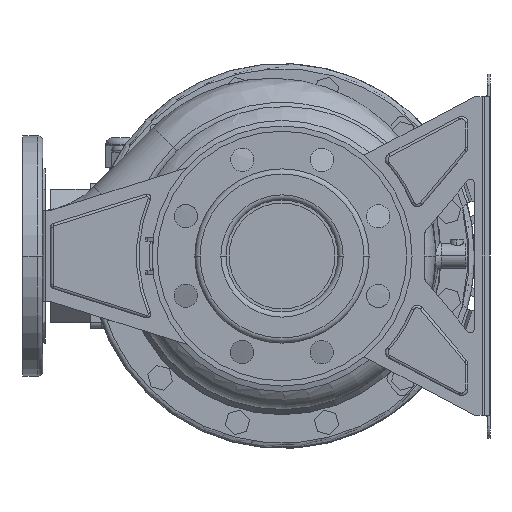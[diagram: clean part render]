
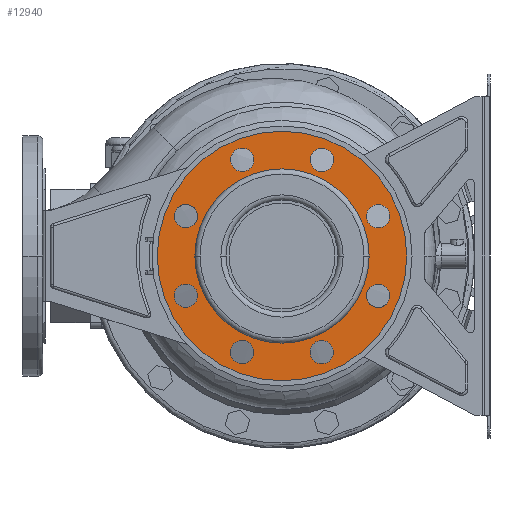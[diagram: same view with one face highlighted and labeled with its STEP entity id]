
A CAD part, left-side view. The second image highlights one B-rep face of the part: STEP entity #12940.
In plain terms, the highlighted planar face has unit normal (-1, 0, 0).
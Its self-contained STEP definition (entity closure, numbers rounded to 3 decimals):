
#12057=CARTESIAN_POINT('',(14.,0.,0.));
#12058=DIRECTION('',(1.,0.,0.));
#12059=DIRECTION('',(0.,-1.,0.));
#12060=AXIS2_PLACEMENT_3D('',#12057,#12058,#12059);
#12065=CARTESIAN_POINT('',(14.,0.,0.));
#12066=DIRECTION('',(1.,0.,0.));
#12067=DIRECTION('',(0.,1.,0.));
#12068=AXIS2_PLACEMENT_3D('',#12065,#12066,#12067);
#12073=CARTESIAN_POINT('',(14.,0.,0.));
#12074=DIRECTION('',(-1.,0.,0.));
#12075=DIRECTION('',(0.,-1.,0.));
#12076=AXIS2_PLACEMENT_3D('',#12073,#12074,#12075);
#12081=CARTESIAN_POINT('',(14.,0.,0.));
#12082=DIRECTION('',(-1.,0.,0.));
#12083=DIRECTION('',(0.,1.,0.));
#12084=AXIS2_PLACEMENT_3D('',#12081,#12082,#12083);
#12089=CARTESIAN_POINT('',(14.,-73.91,30.615));
#12090=DIRECTION('',(-1.,0.,0.));
#12091=DIRECTION('',(0.,-1.,0.));
#12092=AXIS2_PLACEMENT_3D('',#12089,#12090,#12091);
#12097=CARTESIAN_POINT('',(14.,-73.91,30.615));
#12098=DIRECTION('',(-1.,0.,0.));
#12099=DIRECTION('',(0.,1.,0.));
#12100=AXIS2_PLACEMENT_3D('',#12097,#12098,#12099);
#12105=CARTESIAN_POINT('',(14.,-73.91,-30.615));
#12106=DIRECTION('',(-1.,0.,0.));
#12107=DIRECTION('',(0.,-0.707,-0.707));
#12108=AXIS2_PLACEMENT_3D('',#12105,#12106,#12107);
#12113=CARTESIAN_POINT('',(14.,-73.91,-30.615));
#12114=DIRECTION('',(-1.,0.,0.));
#12115=DIRECTION('',(0.,0.707,0.707));
#12116=AXIS2_PLACEMENT_3D('',#12113,#12114,#12115);
#12121=CARTESIAN_POINT('',(14.,-30.615,-73.91));
#12122=DIRECTION('',(-1.,0.,0.));
#12123=DIRECTION('',(0.,0.,-1.));
#12124=AXIS2_PLACEMENT_3D('',#12121,#12122,#12123);
#12129=CARTESIAN_POINT('',(14.,-30.615,-73.91));
#12130=DIRECTION('',(-1.,0.,0.));
#12131=DIRECTION('',(0.,0.,1.));
#12132=AXIS2_PLACEMENT_3D('',#12129,#12130,#12131);
#12137=CARTESIAN_POINT('',(14.,30.615,-73.91));
#12138=DIRECTION('',(-1.,0.,0.));
#12139=DIRECTION('',(0.,0.707,-0.707));
#12140=AXIS2_PLACEMENT_3D('',#12137,#12138,#12139);
#12145=CARTESIAN_POINT('',(14.,30.615,-73.91));
#12146=DIRECTION('',(-1.,0.,0.));
#12147=DIRECTION('',(0.,-0.707,0.707));
#12148=AXIS2_PLACEMENT_3D('',#12145,#12146,#12147);
#12153=CARTESIAN_POINT('',(14.,73.91,-30.615));
#12154=DIRECTION('',(-1.,0.,0.));
#12155=DIRECTION('',(0.,1.,0.));
#12156=AXIS2_PLACEMENT_3D('',#12153,#12154,#12155);
#12161=CARTESIAN_POINT('',(14.,73.91,-30.615));
#12162=DIRECTION('',(-1.,0.,0.));
#12163=DIRECTION('',(0.,-1.,0.));
#12164=AXIS2_PLACEMENT_3D('',#12161,#12162,#12163);
#12169=CARTESIAN_POINT('',(14.,73.91,30.615));
#12170=DIRECTION('',(-1.,0.,0.));
#12171=DIRECTION('',(0.,0.707,0.707));
#12172=AXIS2_PLACEMENT_3D('',#12169,#12170,#12171);
#12177=CARTESIAN_POINT('',(14.,73.91,30.615));
#12178=DIRECTION('',(-1.,0.,0.));
#12179=DIRECTION('',(0.,-0.707,-0.707));
#12180=AXIS2_PLACEMENT_3D('',#12177,#12178,#12179);
#12185=CARTESIAN_POINT('',(14.,30.615,73.91));
#12186=DIRECTION('',(-1.,0.,0.));
#12187=DIRECTION('',(0.,0.,1.));
#12188=AXIS2_PLACEMENT_3D('',#12185,#12186,#12187);
#12193=CARTESIAN_POINT('',(14.,30.615,73.91));
#12194=DIRECTION('',(-1.,0.,0.));
#12195=DIRECTION('',(0.,0.,-1.));
#12196=AXIS2_PLACEMENT_3D('',#12193,#12194,#12195);
#12201=CARTESIAN_POINT('',(14.,-30.615,73.91));
#12202=DIRECTION('',(-1.,0.,0.));
#12203=DIRECTION('',(0.,-0.707,0.707));
#12204=AXIS2_PLACEMENT_3D('',#12201,#12202,#12203);
#12209=CARTESIAN_POINT('',(14.,-30.615,73.91));
#12210=DIRECTION('',(-1.,0.,0.));
#12211=DIRECTION('',(0.,0.707,-0.707));
#12212=AXIS2_PLACEMENT_3D('',#12209,#12210,#12211);
#12515=CARTESIAN_POINT('',(14.,96.,0.));
#12516=VERTEX_POINT('',#12515);
#12517=CARTESIAN_POINT('',(14.,-96.,0.));
#12518=VERTEX_POINT('',#12517);
#12519=CARTESIAN_POINT('',(14.,-67.,0.));
#12520=CARTESIAN_POINT('',(14.,67.,0.));
#12521=VERTEX_POINT('',#12519);
#12522=VERTEX_POINT('',#12520);
#12523=CARTESIAN_POINT('',(14.,-82.91,30.615));
#12524=CARTESIAN_POINT('',(14.,-64.91,30.615));
#12525=VERTEX_POINT('',#12523);
#12526=VERTEX_POINT('',#12524);
#12527=CARTESIAN_POINT('',(14.,-80.274,-36.979));
#12528=CARTESIAN_POINT('',(14.,-67.546,-24.251));
#12529=VERTEX_POINT('',#12527);
#12530=VERTEX_POINT('',#12528);
#12531=CARTESIAN_POINT('',(14.,-30.615,-82.91));
#12532=CARTESIAN_POINT('',(14.,-30.615,-64.91));
#12533=VERTEX_POINT('',#12531);
#12534=VERTEX_POINT('',#12532);
#12535=CARTESIAN_POINT('',(14.,36.979,-80.274));
#12536=CARTESIAN_POINT('',(14.,24.251,-67.546));
#12537=VERTEX_POINT('',#12535);
#12538=VERTEX_POINT('',#12536);
#12539=CARTESIAN_POINT('',(14.,82.91,-30.615));
#12540=CARTESIAN_POINT('',(14.,64.91,-30.615));
#12541=VERTEX_POINT('',#12539);
#12542=VERTEX_POINT('',#12540);
#12543=CARTESIAN_POINT('',(14.,80.274,36.979));
#12544=CARTESIAN_POINT('',(14.,67.546,24.251));
#12545=VERTEX_POINT('',#12543);
#12546=VERTEX_POINT('',#12544);
#12547=CARTESIAN_POINT('',(14.,30.615,82.91));
#12548=CARTESIAN_POINT('',(14.,30.615,64.91));
#12549=VERTEX_POINT('',#12547);
#12550=VERTEX_POINT('',#12548);
#12551=CARTESIAN_POINT('',(14.,-36.979,80.274));
#12552=CARTESIAN_POINT('',(14.,-24.251,67.546));
#12553=VERTEX_POINT('',#12551);
#12554=VERTEX_POINT('',#12552);
#12877=CARTESIAN_POINT('',(14.,0.,0.));
#12878=DIRECTION('',(1.,0.,0.));
#12879=DIRECTION('',(0.,-1.,0.));
#12880=AXIS2_PLACEMENT_3D('',#12877,#12878,#12879);
#12881=PLANE('',#12880);
#12882=ORIENTED_EDGE('',*,*,#12870,.T.);
#12883=ORIENTED_EDGE('',*,*,#12859,.T.);
#12884=EDGE_LOOP('',(#12882,#12883));
#12885=FACE_OUTER_BOUND('',#12884,.F.);
#12887=ORIENTED_EDGE('',*,*,#12886,.T.);
#12889=ORIENTED_EDGE('',*,*,#12888,.T.);
#12890=EDGE_LOOP('',(#12887,#12889));
#12891=FACE_BOUND('',#12890,.F.);
#12893=ORIENTED_EDGE('',*,*,#12892,.T.);
#12895=ORIENTED_EDGE('',*,*,#12894,.T.);
#12896=EDGE_LOOP('',(#12893,#12895));
#12897=FACE_BOUND('',#12896,.F.);
#12899=ORIENTED_EDGE('',*,*,#12898,.T.);
#12901=ORIENTED_EDGE('',*,*,#12900,.T.);
#12902=EDGE_LOOP('',(#12899,#12901));
#12903=FACE_BOUND('',#12902,.F.);
#12905=ORIENTED_EDGE('',*,*,#12904,.T.);
#12907=ORIENTED_EDGE('',*,*,#12906,.T.);
#12908=EDGE_LOOP('',(#12905,#12907));
#12909=FACE_BOUND('',#12908,.F.);
#12911=ORIENTED_EDGE('',*,*,#12910,.T.);
#12913=ORIENTED_EDGE('',*,*,#12912,.T.);
#12914=EDGE_LOOP('',(#12911,#12913));
#12915=FACE_BOUND('',#12914,.F.);
#12917=ORIENTED_EDGE('',*,*,#12916,.T.);
#12919=ORIENTED_EDGE('',*,*,#12918,.T.);
#12920=EDGE_LOOP('',(#12917,#12919));
#12921=FACE_BOUND('',#12920,.F.);
#12923=ORIENTED_EDGE('',*,*,#12922,.T.);
#12925=ORIENTED_EDGE('',*,*,#12924,.T.);
#12926=EDGE_LOOP('',(#12923,#12925));
#12927=FACE_BOUND('',#12926,.F.);
#12929=ORIENTED_EDGE('',*,*,#12928,.T.);
#12931=ORIENTED_EDGE('',*,*,#12930,.T.);
#12932=EDGE_LOOP('',(#12929,#12931));
#12933=FACE_BOUND('',#12932,.F.);
#12935=ORIENTED_EDGE('',*,*,#12934,.T.);
#12937=ORIENTED_EDGE('',*,*,#12936,.T.);
#12938=EDGE_LOOP('',(#12935,#12937));
#12939=FACE_BOUND('',#12938,.F.);
#12061=CIRCLE('',#12060,96.);
#12069=CIRCLE('',#12068,96.);
#12077=CIRCLE('',#12076,67.);
#12085=CIRCLE('',#12084,67.);
#12093=CIRCLE('',#12092,9.);
#12101=CIRCLE('',#12100,9.);
#12109=CIRCLE('',#12108,9.);
#12117=CIRCLE('',#12116,9.);
#12125=CIRCLE('',#12124,9.);
#12133=CIRCLE('',#12132,9.);
#12141=CIRCLE('',#12140,9.);
#12149=CIRCLE('',#12148,9.);
#12157=CIRCLE('',#12156,9.);
#12165=CIRCLE('',#12164,9.);
#12173=CIRCLE('',#12172,9.);
#12181=CIRCLE('',#12180,9.);
#12189=CIRCLE('',#12188,9.);
#12197=CIRCLE('',#12196,9.);
#12205=CIRCLE('',#12204,9.);
#12213=CIRCLE('',#12212,9.);
#12859=EDGE_CURVE('',#12516,#12518,#12069,.T.);
#12870=EDGE_CURVE('',#12518,#12516,#12061,.T.);
#12886=EDGE_CURVE('',#12521,#12522,#12077,.T.);
#12888=EDGE_CURVE('',#12522,#12521,#12085,.T.);
#12892=EDGE_CURVE('',#12525,#12526,#12093,.T.);
#12894=EDGE_CURVE('',#12526,#12525,#12101,.T.);
#12898=EDGE_CURVE('',#12529,#12530,#12109,.T.);
#12900=EDGE_CURVE('',#12530,#12529,#12117,.T.);
#12904=EDGE_CURVE('',#12533,#12534,#12125,.T.);
#12906=EDGE_CURVE('',#12534,#12533,#12133,.T.);
#12910=EDGE_CURVE('',#12537,#12538,#12141,.T.);
#12912=EDGE_CURVE('',#12538,#12537,#12149,.T.);
#12916=EDGE_CURVE('',#12541,#12542,#12157,.T.);
#12918=EDGE_CURVE('',#12542,#12541,#12165,.T.);
#12922=EDGE_CURVE('',#12545,#12546,#12173,.T.);
#12924=EDGE_CURVE('',#12546,#12545,#12181,.T.);
#12928=EDGE_CURVE('',#12549,#12550,#12189,.T.);
#12930=EDGE_CURVE('',#12550,#12549,#12197,.T.);
#12934=EDGE_CURVE('',#12553,#12554,#12205,.T.);
#12936=EDGE_CURVE('',#12554,#12553,#12213,.T.);
#12940=ADVANCED_FACE('',(#12885,#12891,#12897,#12903,#12909,#12915,#12921,
#12927,#12933,#12939),#12881,.F.);
